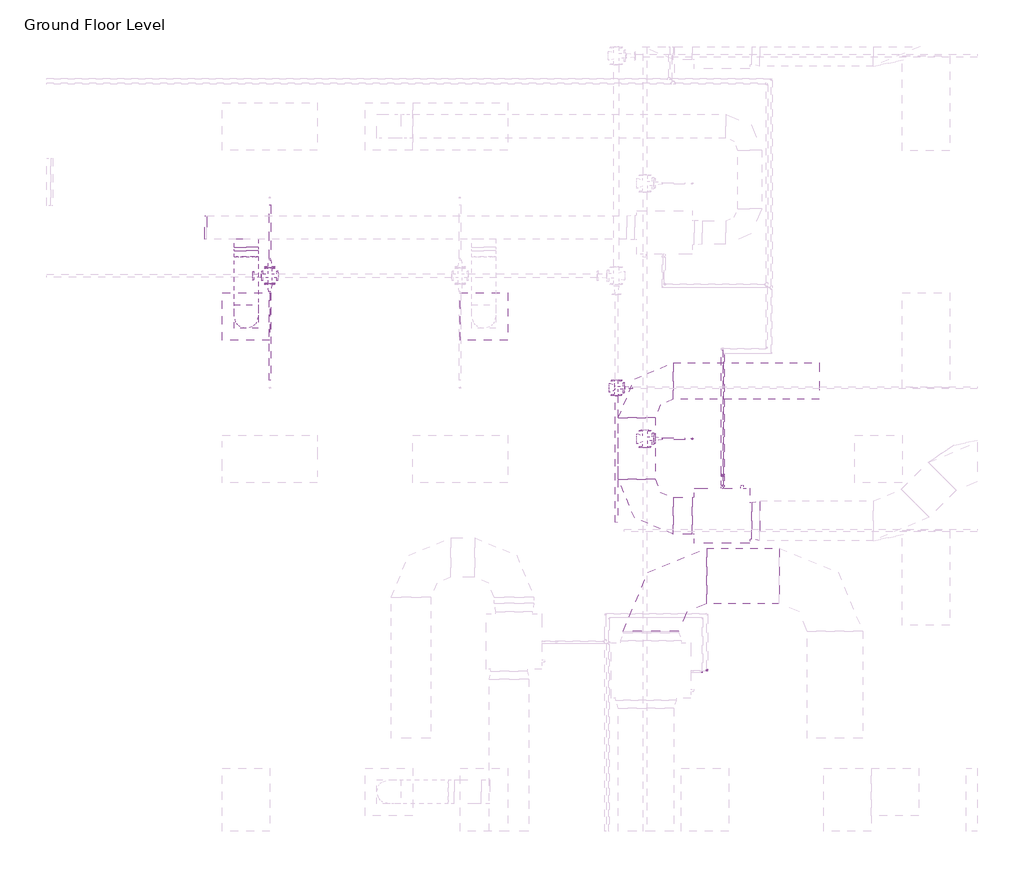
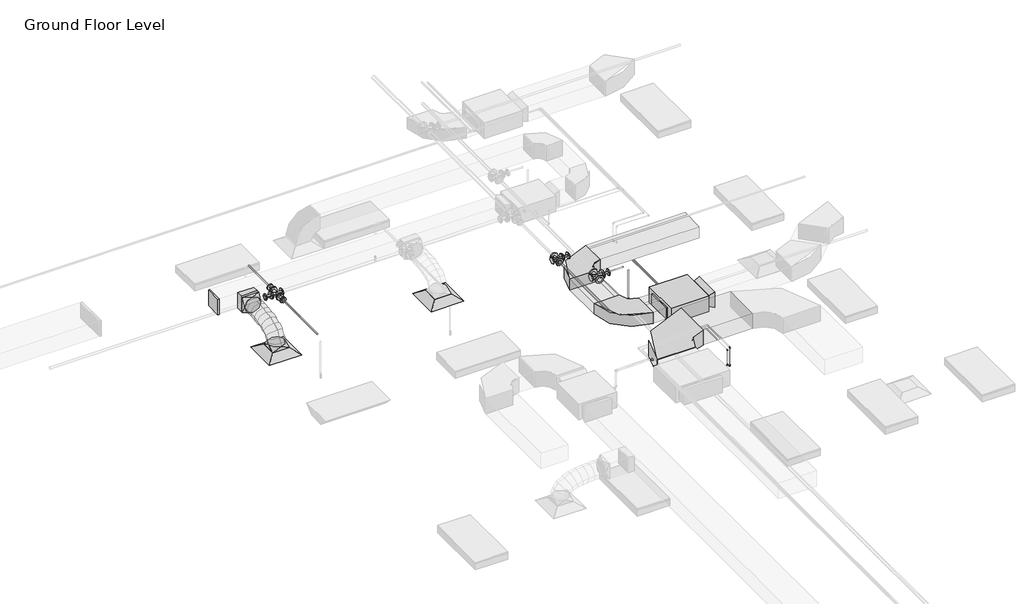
# One storey, part 34 of 74: 16 pipe fittings, 13 pipe segments, 8 duct fittings, 6 duct segments, 2 air terminals, 1 fire suppression terminal, 1 proxy.
"""IFC4 building model written with IfcOpenShell, lengths in millimetres."""

from ifc_helpers import new_model, si_unit, point, frame, frame_2d, origin, place, context, project, spatial, polyline, circle_curve, ellipse_curve, trimmed, segment, composite_curve, outline, extrude, transform, mapped, element, save
from ifc_brep_helpers import plane_surface, cylinder_surface, advanced_brep
from components import m_return_diffuser_600_x_600_face_300_x_300_connection_ff221211, fcu_daikin_iu_bad131e0, m_rectangular_elbow_radius_1_w_54c96895, m_rectangular_elbow_radius_1_w_8a62b27e, m_rectangular_endcap_standard_c319d4e7, m_rectangular_takeoff_standard_cb0ccb98, m_rectangular_transition_angle_45_degree_2b595dfe, m_rectangular_to_round_transition_angle_45_degree_641efff0, m_sprinkler_pendent_15_mm_pendent_06fcbd8e, m_cross_flanged_cs_class_150_standard_fc817054, m_elbow_generic_standard_a088f956, m_elbow_generic_standard_2a704253, m_reducer_flanged_cs_class_150_standard_ccf252ad, m_reducer_flanged_cs_class_150_standard_83138b42, m_reducer_flanged_cs_class_150_standard_564df86d, m_reducer_flanged_cs_class_150_standard_dc68ad9d, m_tee_round_base_flanged_cs_class_150_standard_7e5987a1, m_tee_round_base_flanged_cs_class_150_standard_ab36f383

model = new_model("IFC4")

# Units and contexts
model_context = context("Model", 3, world=origin())
ifc_project = project(units=[si_unit("LENGTHUNIT", "METRE", prefix="MILLI")], contexts=[model_context])

# Site, building, storey
site = spatial("IfcSite", under=ifc_project)
building = spatial("IfcBuilding", under=site)
storey = spatial("IfcBuildingStorey", under=building, Name="Ground Floor Level", Elevation=900.0)

# Air terminals
placement = place(None, origin())
m_return_diffuser_600_x_600_face_300_x_300_connection_shape = m_return_diffuser_600_x_600_face_300_x_300_connection_ff221211(model_context)
element("IfcAirTerminal", 1, ObjectType="M_Supply Diffuser : 600 x 600 Face 300 x 300 Connection", at=placement, inside=storey, context=model_context, shape_type="MappedRepresentation", body=[
    mapped(m_return_diffuser_600_x_600_face_300_x_300_connection_shape, transform((962.7672395, -3464.7846466, 3650.0), x_axis=(1.0, 0.0, 0.0), y_axis=(0.0, 1.0, 0.0), z_axis=(0.0, 0.0, 1.0))),
])
element("IfcAirTerminal", 2, ObjectType="M_Supply Diffuser : 600 x 600 Face 300 x 300 Connection", at=placement, inside=storey, context=model_context, shape_type="MappedRepresentation", body=[
    mapped(m_return_diffuser_600_x_600_face_300_x_300_connection_shape, transform((3962.7672395, -3464.7846466, 3650.0), x_axis=(1.0, 0.0, 0.0), y_axis=(0.0, 1.0, 0.0), z_axis=(0.0, 0.0, 1.0))),
])

# Proxy
fcu_daikin_iu_shape = fcu_daikin_iu_bad131e0(model_context)
element("IfcBuildingElementProxy", 3, Name="FCU-DAIKIN IU : 4.5kW, 230V/50Hz/1Ph", ObjectType="FCU-DAIKIN IU : 4.5kW, 230V/50Hz/1Ph", at=placement, inside=storey, context=model_context, shape_type="MappedRepresentation", body=[
    mapped(fcu_daikin_iu_shape, transform((6968.8139492, -5980.3220473, 3934.0932729), x_axis=(0.0, 1.0, 0.0), y_axis=(-1.0, 0.0, 0.0), z_axis=(0.0, 0.0, 1.0))),
])

# Duct fittings
m_rectangular_elbow_radius_1_w_shape = m_rectangular_elbow_radius_1_w_54c96895(model_context)
element("IfcDuctFitting", 4, ObjectType="M_Rectangular Elbow - Radius : 1 W", at=placement, inside=storey, context=model_context, shape_type="MappedRepresentation", body=[
    mapped(m_rectangular_elbow_radius_1_w_shape, transform((5893.4139492, -5980.3220473, 4075.2932729), x_axis=(0.0, -1.0, 0.0), y_axis=(1.0, 0.0, 0.0), z_axis=(0.0, 0.0, 1.0))),
])
element("IfcDuctFitting", 5, ObjectType="M_Rectangular Elbow - Radius : 1 W", at=placement, inside=storey, context=model_context, shape_type="MappedRepresentation", body=[
    mapped(m_rectangular_elbow_radius_1_w_shape, transform((5893.4139492, -4280.3216051, 4075.2932729), x_axis=(-1.0, 0.0, 0.0), y_axis=(0.0, -1.0, 0.0), z_axis=(0.0, 0.0, 1.0))),
])
m_rectangular_elbow_radius_1_w_2_shape = m_rectangular_elbow_radius_1_w_8a62b27e(model_context)
element("IfcDuctFitting", 6, ObjectType="M_Rectangular Elbow - Radius : 1 W", at=placement, inside=storey, context=model_context, shape_type="MappedRepresentation", body=[
    mapped(m_rectangular_elbow_radius_1_w_2_shape, transform((6073.4139492, -6738.5358641, 4075.2875), x_axis=(-1.0, 0.0, 0.0), y_axis=(0.0, -1.0, 0.0), z_axis=(0.0, 0.0, 1.0))),
])
m_rectangular_endcap_standard_shape = m_rectangular_endcap_standard_c319d4e7(model_context)
element("IfcDuctFitting", 7, ObjectType="M_Rectangular Endcap : Standard", at=placement, inside=storey, context=model_context, shape_type="MappedRepresentation", body=[
    mapped(m_rectangular_endcap_standard_shape, transform((468.0139492, -2341.7438478, 4099.9874667), x_axis=(-0.9999999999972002, 0.0, -2.3663212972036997e-06), y_axis=(0.0, -1.0, 0.0), z_axis=(-2.3663212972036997e-06, 0.0, 0.9999999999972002))),
])
m_rectangular_takeoff_standard_shape = m_rectangular_takeoff_standard_cb0ccb98(model_context)
element("IfcDuctFitting", 8, ObjectType="M_Rectangular Takeoff : Standard", at=placement, inside=storey, context=model_context, shape_type="MappedRepresentation", body=[
    mapped(m_rectangular_takeoff_standard_shape, transform((962.7672395, -2491.7438478, 4099.9886375), x_axis=(0.0, -1.0, 0.0), y_axis=(-1.0, 0.0, 0.0), z_axis=(0.0, 0.0, -1.0))),
])
m_rectangular_transition_angle_45_degree_shape = m_rectangular_transition_angle_45_degree_2b595dfe(model_context)
element("IfcDuctFitting", 9, ObjectType="M_Rectangular Transition - Angle : 45 Degree", at=placement, inside=storey, context=model_context, shape_type="MappedRepresentation", body=[
    mapped(m_rectangular_transition_angle_45_degree_shape, transform((7344.2139492, -6043.8220473, 4100.0057729), x_axis=(1.0, 0.0, 0.0), y_axis=(0.0, 1.0, 0.0), z_axis=(0.0, 0.0, 1.0))),
])
m_rectangular_to_round_transition_angle_45_degree_shape = m_rectangular_to_round_transition_angle_45_degree_641efff0(model_context)
element("IfcDuctFitting", 10, ObjectType="M_Rectangular to Round Transition - Angle : 45 Degree", at=placement, inside=storey, context=model_context, shape_type="MappedRepresentation", body=[
    mapped(m_rectangular_to_round_transition_angle_45_degree_shape, transform((962.7672395, -3464.7846466, 3751.6), x_axis=(0.0, 0.0, 1.0), y_axis=(-1.0, 0.0, 0.0), z_axis=(0.0, -1.0, 0.0))),
])
element("IfcDuctFitting", 11, ObjectType="M_Rectangular to Round Transition - Angle : 45 Degree", at=placement, inside=storey, context=model_context, shape_type="MappedRepresentation", body=[
    mapped(m_rectangular_to_round_transition_angle_45_degree_shape, transform((962.7672395, -2637.4373528, 4099.9886375), x_axis=(0.0, -1.0, 0.0), y_axis=(1.0, 0.0, 0.0), z_axis=(0.0, 0.0, 1.0))),
])

# Duct segments
element("IfcDuctSegment", 12, ObjectType="Flex - Round", at=placement, inside=storey, context=model_context, shape_type="AdvancedBrep", body=[
    advanced_brep(
    [(1112.7672395, -3464.7846466, 3826.6), (962.7672395, -3614.7846466, 3826.6), (812.7672395, -3464.7846466, 3826.6), (962.7672395, -3314.7846466, 3826.6), (1112.7672395, -3464.7846466, 3857.9381884), (962.7672395, -3614.7846466, 3883.5819935), (812.7672395, -3464.7846466, 3857.9381884), (962.7672395, -3314.7846466, 3832.2943832), (1112.7672395, -3447.768399, 3906.25078), (962.7672395, -3581.5056623, 3978.0678058), (812.7672395, -3447.768399, 3906.25078), (962.7672395, -3314.0311357, 3834.4337542), (1112.7672395, -3400.5836609, 3968.7107931), (962.7672395, -3504.7876153, 4079.6220458), (812.7672395, -3400.5836609, 3968.7107931), (962.7672395, -3296.3797065, 3857.7995403), (1112.7672395, -3329.0264393, 4016.0681252), (962.7672395, -3397.9574302, 4150.3234013), (812.7672395, -3329.0264393, 4016.0681252), (962.7672395, -3260.0954484, 3881.8128492), (1112.7672395, -3238.8927413, 4050.4108625), (962.7672395, -3282.4501545, 4194.3339779), (812.7672395, -3238.8927413, 4050.4108625), (962.7672395, -3195.3353281, 3906.4877471), (1112.7672395, -3135.978574, 4073.8270909), (962.7672395, -3162.5363225, 4221.6181678), (812.7672395, -3135.978574, 4073.8270909), (962.7672395, -3109.4208256, 3926.0360141), (1112.7672395, -3026.0799445, 4088.4048966), (962.7672395, -3041.2280867, 4237.7094321), (812.7672395, -3026.0799445, 4088.4048966), (962.7672395, -3010.9318022, 3939.1003612), (1112.7672395, -2914.9928597, 4096.2323656), (962.7672395, -2922.4960405, 4246.0755838), (812.7672395, -2914.9928597, 4096.2323656), (962.7672395, -2907.4896789, 3946.3891473), (1112.7672395, -2808.5133268, 4099.3975838), (962.7672395, -2811.2035581, 4249.3838721), (812.7672395, -2808.5133268, 4099.3975838), (962.7672395, -2805.8230955, 3949.4112955), (1112.7672395, -2712.4373528, 4099.9886375), (962.7672395, -2711.5145792, 3949.9914759), (812.7672395, -2712.4373528, 4099.9886375), (962.7672395, -2713.3601263, 4249.9857991)],
    [
        (0, 1, circle_curve(frame((962.7672395, -3464.7846466, 3826.6), z_axis=(0.0, 0.0, -1.0), x_axis=(1.0, 0.0, 0.0)), 150.0)),
        (1, 2, circle_curve(frame((962.7672395, -3464.7846466, 3826.6), z_axis=(0.0, 0.0, -1.0), x_axis=(1.0, 0.0, 0.0)), 150.0)),
        (2, 3, circle_curve(frame((962.7672395, -3464.7846466, 3826.6), z_axis=(0.0, 0.0, -1.0), x_axis=(1.0, 0.0, 0.0)), 150.0)),
        (3, 0, circle_curve(frame((962.7672395, -3464.7846466, 3826.6), z_axis=(0.0, 0.0, -1.0), x_axis=(1.0, 0.0, 0.0)), 150.0)),
        (0, 4),
        (4, 5, ellipse_curve(frame((962.7672395, -3464.7846466, 3857.9381884), z_axis=(0.0, -0.1685138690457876, -0.985699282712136), x_axis=(0.0, 0.9856992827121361, -0.16851386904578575)), 152.1762292, 150.0)),
        (5, 1),
        (5, 6, ellipse_curve(frame((962.7672395, -3464.7846466, 3857.9381884), z_axis=(0.0, -0.1685138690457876, -0.985699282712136), x_axis=(0.0, 0.9856992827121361, -0.16851386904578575)), 152.1762292, 150.0)),
        (6, 2),
        (6, 7, ellipse_curve(frame((962.7672395, -3464.7846466, 3857.9381884), z_axis=(0.0, -0.1685138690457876, -0.985699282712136), x_axis=(0.0, 0.9856992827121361, -0.16851386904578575)), 152.1762292, 150.0)),
        (7, 3),
        (7, 4, ellipse_curve(frame((962.7672395, -3464.7846466, 3857.9381884), z_axis=(0.0, -0.1685138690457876, -0.985699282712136), x_axis=(0.0, 0.9856992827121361, -0.16851386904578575)), 152.1762292, 150.0)),
        (4, 8),
        (8, 9, ellipse_curve(frame((962.7672395, -3447.768399, 3906.25078), z_axis=(0.0, -0.47310190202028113, -0.8810077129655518), x_axis=(0.0, 0.8810077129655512, -0.47310190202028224)), 151.800332, 150.0)),
        (9, 5),
        (9, 10, ellipse_curve(frame((962.7672395, -3447.768399, 3906.25078), z_axis=(0.0, -0.47310190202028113, -0.8810077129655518), x_axis=(0.0, 0.8810077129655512, -0.47310190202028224)), 151.800332, 150.0)),
        (10, 6),
        (10, 11, ellipse_curve(frame((962.7672395, -3447.768399, 3906.25078), z_axis=(0.0, -0.47310190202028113, -0.8810077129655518), x_axis=(0.0, 0.8810077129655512, -0.47310190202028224)), 151.800332, 150.0)),
        (11, 7),
        (11, 8, ellipse_curve(frame((962.7672395, -3447.768399, 3906.25078), z_axis=(0.0, -0.47310190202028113, -0.8810077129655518), x_axis=(0.0, 0.8810077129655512, -0.47310190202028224)), 151.800332, 150.0)),
        (8, 12),
        (12, 13, ellipse_curve(frame((962.7672395, -3400.5836609, 3968.7107931), z_axis=(0.0, -0.7288002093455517, -0.6847264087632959), x_axis=(0.0, 0.6847264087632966, -0.7288002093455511)), 152.1833437, 150.0)),
        (13, 9),
        (13, 14, ellipse_curve(frame((962.7672395, -3400.5836609, 3968.7107931), z_axis=(0.0, -0.7288002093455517, -0.6847264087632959), x_axis=(0.0, 0.6847264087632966, -0.7288002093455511)), 152.1833437, 150.0)),
        (14, 10),
        (14, 15, ellipse_curve(frame((962.7672395, -3400.5836609, 3968.7107931), z_axis=(0.0, -0.7288002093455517, -0.6847264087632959), x_axis=(0.0, 0.6847264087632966, -0.7288002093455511)), 152.1833437, 150.0)),
        (15, 11),
        (15, 12, ellipse_curve(frame((962.7672395, -3400.5836609, 3968.7107931), z_axis=(0.0, -0.7288002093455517, -0.6847264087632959), x_axis=(0.0, 0.6847264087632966, -0.7288002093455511)), 152.1833437, 150.0)),
        (12, 16),
        (16, 17, ellipse_curve(frame((962.7672395, -3329.0264393, 4016.0681252), z_axis=(0.0, -0.8895963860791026, -0.45674749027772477), x_axis=(0.0, 0.456747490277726, -0.889596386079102)), 150.9170655, 150.0)),
        (17, 13),
        (17, 18, ellipse_curve(frame((962.7672395, -3329.0264393, 4016.0681252), z_axis=(0.0, -0.8895963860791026, -0.45674749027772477), x_axis=(0.0, 0.456747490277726, -0.889596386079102)), 150.9170655, 150.0)),
        (18, 14),
        (18, 19, ellipse_curve(frame((962.7672395, -3329.0264393, 4016.0681252), z_axis=(0.0, -0.8895963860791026, -0.45674749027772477), x_axis=(0.0, 0.456747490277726, -0.889596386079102)), 150.9170655, 150.0)),
        (19, 15),
        (19, 16, ellipse_curve(frame((962.7672395, -3329.0264393, 4016.0681252), z_axis=(0.0, -0.8895963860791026, -0.45674749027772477), x_axis=(0.0, 0.456747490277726, -0.889596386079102)), 150.9170655, 150.0)),
        (16, 20),
        (20, 21, ellipse_curve(frame((962.7672395, -3238.8927413, 4050.4108625), z_axis=(0.0, -0.9571270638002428, -0.28966840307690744), x_axis=(0.0, 0.2896684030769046, -0.9571270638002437)), 150.3699152, 150.0)),
        (21, 17),
        (21, 22, ellipse_curve(frame((962.7672395, -3238.8927413, 4050.4108625), z_axis=(0.0, -0.9571270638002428, -0.28966840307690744), x_axis=(0.0, 0.2896684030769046, -0.9571270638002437)), 150.3699152, 150.0)),
        (22, 18),
        (22, 23, ellipse_curve(frame((962.7672395, -3238.8927413, 4050.4108625), z_axis=(0.0, -0.9571270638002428, -0.28966840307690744), x_axis=(0.0, 0.2896684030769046, -0.9571270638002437)), 150.3699152, 150.0)),
        (23, 19),
        (23, 20, ellipse_curve(frame((962.7672395, -3238.8927413, 4050.4108625), z_axis=(0.0, -0.9571270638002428, -0.28966840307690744), x_axis=(0.0, 0.2896684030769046, -0.9571270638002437)), 150.3699152, 150.0)),
        (20, 24),
        (24, 25, ellipse_curve(frame((962.7672395, -3135.978574, 4073.8270909), z_axis=(0.0, -0.9842351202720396, -0.17686499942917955), x_axis=(0.0, 0.176864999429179, -0.9842351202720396)), 150.1583045, 150.0)),
        (25, 21),
        (25, 26, ellipse_curve(frame((962.7672395, -3135.978574, 4073.8270909), z_axis=(0.0, -0.9842351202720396, -0.17686499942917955), x_axis=(0.0, 0.176864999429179, -0.9842351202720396)), 150.1583045, 150.0)),
        (26, 22),
        (26, 27, ellipse_curve(frame((962.7672395, -3135.978574, 4073.8270909), z_axis=(0.0, -0.9842351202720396, -0.17686499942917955), x_axis=(0.0, 0.176864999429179, -0.9842351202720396)), 150.1583045, 150.0)),
        (27, 23),
        (27, 24, ellipse_curve(frame((962.7672395, -3135.978574, 4073.8270909), z_axis=(0.0, -0.9842351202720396, -0.17686499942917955), x_axis=(0.0, 0.176864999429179, -0.9842351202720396)), 150.1583045, 150.0)),
        (24, 28),
        (28, 29, ellipse_curve(frame((962.7672395, -3026.0799445, 4088.4048966), z_axis=(0.0, -0.9948925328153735, -0.10093982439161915), x_axis=(0.0, 0.10093982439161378, -0.9948925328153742)), 150.0710183, 150.0)),
        (29, 25),
        (29, 30, ellipse_curve(frame((962.7672395, -3026.0799445, 4088.4048966), z_axis=(0.0, -0.9948925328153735, -0.10093982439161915), x_axis=(0.0, 0.10093982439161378, -0.9948925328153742)), 150.0710183, 150.0)),
        (30, 26),
        (30, 31, ellipse_curve(frame((962.7672395, -3026.0799445, 4088.4048966), z_axis=(0.0, -0.9948925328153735, -0.10093982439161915), x_axis=(0.0, 0.10093982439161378, -0.9948925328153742)), 150.0710183, 150.0)),
        (31, 27),
        (31, 28, ellipse_curve(frame((962.7672395, -3026.0799445, 4088.4048966), z_axis=(0.0, -0.9948925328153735, -0.10093982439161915), x_axis=(0.0, 0.10093982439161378, -0.9948925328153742)), 150.0710183, 150.0)),
        (28, 32),
        (32, 33, ellipse_curve(frame((962.7672395, -2914.9928597, 4096.2323656), z_axis=(0.0, -0.998748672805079, -0.050010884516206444), x_axis=(0.0, 0.05001088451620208, -0.9987486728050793)), 150.030956, 150.0)),
        (33, 29),
        (33, 34, ellipse_curve(frame((962.7672395, -2914.9928597, 4096.2323656), z_axis=(0.0, -0.998748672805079, -0.050010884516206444), x_axis=(0.0, 0.05001088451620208, -0.9987486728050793)), 150.030956, 150.0)),
        (34, 30),
        (34, 35, ellipse_curve(frame((962.7672395, -2914.9928597, 4096.2323656), z_axis=(0.0, -0.998748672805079, -0.050010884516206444), x_axis=(0.0, 0.05001088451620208, -0.9987486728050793)), 150.030956, 150.0)),
        (35, 31),
        (35, 32, ellipse_curve(frame((962.7672395, -2914.9928597, 4096.2323656), z_axis=(0.0, -0.998748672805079, -0.050010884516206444), x_axis=(0.0, 0.05001088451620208, -0.9987486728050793)), 150.030956, 150.0)),
        (32, 36),
        (36, 37, ellipse_curve(frame((962.7672395, -2808.5133268, 4099.3975838), z_axis=(0.0, -0.9998391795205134, -0.017933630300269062), x_axis=(0.0, 0.017933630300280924, -0.9998391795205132)), 150.0104131, 150.0)),
        (37, 33),
        (37, 38, ellipse_curve(frame((962.7672395, -2808.5133268, 4099.3975838), z_axis=(0.0, -0.9998391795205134, -0.017933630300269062), x_axis=(0.0, 0.017933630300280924, -0.9998391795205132)), 150.0104131, 150.0)),
        (38, 34),
        (38, 39, ellipse_curve(frame((962.7672395, -2808.5133268, 4099.3975838), z_axis=(0.0, -0.9998391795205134, -0.017933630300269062), x_axis=(0.0, 0.017933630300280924, -0.9998391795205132)), 150.0104131, 150.0)),
        (39, 35),
        (39, 36, ellipse_curve(frame((962.7672395, -2808.5133268, 4099.3975838), z_axis=(0.0, -0.9998391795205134, -0.017933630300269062), x_axis=(0.0, 0.017933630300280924, -0.9998391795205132)), 150.0104131, 150.0)),
        (40, 41, circle_curve(frame((962.7672395, -2712.4373528, 4099.9886375), z_axis=(0.0, 0.9999810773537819, 0.006151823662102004), x_axis=(1.0, 0.0, 0.0)), 150.0)),
        (41, 42, circle_curve(frame((962.7672395, -2712.4373528, 4099.9886375), z_axis=(0.0, 0.9999810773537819, 0.006151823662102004), x_axis=(1.0, 0.0, 0.0)), 150.0)),
        (42, 43, circle_curve(frame((962.7672395, -2712.4373528, 4099.9886375), z_axis=(0.0, 0.9999810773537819, 0.006151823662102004), x_axis=(1.0, 0.0, 0.0)), 150.0)),
        (43, 40, circle_curve(frame((962.7672395, -2712.4373528, 4099.9886375), z_axis=(0.0, 0.9999810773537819, 0.006151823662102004), x_axis=(1.0, 0.0, 0.0)), 150.0)),
        (36, 40),
        (43, 37),
        (42, 38),
        (41, 39),
    ],
    [
        plane_surface(frame((962.7672395, -3614.7846466, 3826.6), z_axis=(0.0, 0.0, -1.0), x_axis=(1.0, 0.0, 0.0))),
        cylinder_surface(frame((962.7672395, -3464.7846466, 3826.6), z_axis=(0.0, 0.0, -1.0), x_axis=(1.0, 0.0, 0.0)), 150.0),
        cylinder_surface(frame((962.7672395, -3464.7846466, 3857.9381884), z_axis=(0.0, -0.3322079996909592, -0.9432061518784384), x_axis=(1.0, 0.0, 0.0)), 150.0),
        cylinder_surface(frame((962.7672395, -3447.768399, 3906.25078), z_axis=(0.0, -0.6027739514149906, -0.79791200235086), x_axis=(1.0, 0.0, 0.0)), 150.0),
        cylinder_surface(frame((962.7672395, -3400.5836609, 3968.7107931), z_axis=(0.0, -0.8339145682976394, -0.5518935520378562), x_axis=(1.0, 0.0, 0.0)), 150.0),
        cylinder_surface(frame((962.7672395, -3329.0264393, 4016.0681252), z_axis=(0.0, -0.9344667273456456, -0.35605046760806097), x_axis=(1.0, 0.0, 0.0)), 150.0),
        cylinder_surface(frame((962.7672395, -3238.8927413, 4050.4108625), z_axis=(0.0, -0.9750782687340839, -0.22186114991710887), x_axis=(1.0, 0.0, 0.0)), 150.0),
        cylinder_surface(frame((962.7672395, -3135.978574, 4073.8270909), z_axis=(0.0, -0.9913167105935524, -0.13149592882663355), x_axis=(1.0, 0.0, 0.0)), 150.0),
        cylinder_surface(frame((962.7672395, -3026.0799445, 4088.4048966), z_axis=(0.0, -0.9975267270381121, -0.07028818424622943), x_axis=(1.0, 0.0, 0.0)), 150.0),
        cylinder_surface(frame((962.7672395, -2914.9928597, 4096.2323656), z_axis=(0.0, -0.9995584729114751, -0.029712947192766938), x_axis=(1.0, 0.0, 0.0)), 150.0),
        plane_surface(frame((962.7672395, -2713.3601263, 4249.9857991), z_axis=(0.0, 0.999981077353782, 0.006151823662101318), x_axis=(1.0, 0.0, 0.0))),
        cylinder_surface(frame((962.7672395, -2808.5133268, 4099.3975838), z_axis=(0.0, -0.9999810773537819, -0.006151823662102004), x_axis=(1.0, 0.0, 0.0)), 150.0),
    ],
    [
        (0, [[1, 2, 3, 4]]),
        (1, [[-1, 5, 6, 7]]),
        (1, [[-2, -7, 8, 9]]),
        (1, [[-3, -9, 10, 11]]),
        (1, [[-4, -11, 12, -5]]),
        (2, [[-6, 13, 14, 15]]),
        (2, [[-8, -15, 16, 17]]),
        (2, [[-10, -17, 18, 19]]),
        (2, [[-12, -19, 20, -13]]),
        (3, [[-14, 21, 22, 23]]),
        (3, [[-16, -23, 24, 25]]),
        (3, [[-18, -25, 26, 27]]),
        (3, [[-20, -27, 28, -21]]),
        (4, [[-22, 29, 30, 31]]),
        (4, [[-24, -31, 32, 33]]),
        (4, [[-26, -33, 34, 35]]),
        (4, [[-28, -35, 36, -29]]),
        (5, [[-30, 37, 38, 39]]),
        (5, [[-32, -39, 40, 41]]),
        (5, [[-34, -41, 42, 43]]),
        (5, [[-36, -43, 44, -37]]),
        (6, [[-38, 45, 46, 47]]),
        (6, [[-40, -47, 48, 49]]),
        (6, [[-42, -49, 50, 51]]),
        (6, [[-44, -51, 52, -45]]),
        (7, [[-46, 53, 54, 55]]),
        (7, [[-48, -55, 56, 57]]),
        (7, [[-50, -57, 58, 59]]),
        (7, [[-52, -59, 60, -53]]),
        (8, [[-54, 61, 62, 63]]),
        (8, [[-56, -63, 64, 65]]),
        (8, [[-58, -65, 66, 67]]),
        (8, [[-60, -67, 68, -61]]),
        (9, [[-62, 69, 70, 71]]),
        (9, [[-64, -71, 72, 73]]),
        (9, [[-66, -73, 74, 75]]),
        (9, [[-68, -75, 76, -69]]),
        (10, [[77, 78, 79, 80]]),
        (11, [[-70, 81, -80, 82]]),
        (11, [[-72, -82, -79, 83]]),
        (11, [[-74, -83, -78, 84]]),
        (11, [[-76, -84, -77, -81]]),
    ],
),
])
element("IfcDuctSegment", 13, ObjectType="Radius Elbows / Taps", at=placement, inside=storey, context=model_context, shape_type="SweptSolid", body=[
    extrude(outline(polyline([(6593.4139492, -5749.3845473), (6593.4139492, -6211.2595473), (6355.2889492, -6211.2595473), (6355.2889492, -5749.3845473), (6593.4139492, -5749.3845473)])), frame((0.0, 0.0, 3968.1432729), z_axis=(0.0, 0.0, 1.0), x_axis=(1.0, 0.0, 0.0)), (0.0, 0.0, 1.0), 214.3),
])
element("IfcDuctSegment", 14, ObjectType="Radius Elbows / Taps", at=placement, inside=storey, context=model_context, shape_type="SweptSolid", body=[
    extrude(outline(polyline([(6124.3514492, -5518.4470473), (5662.4764492, -5518.4470473), (5662.4764492, -4742.1966051), (6124.3514492, -4742.1966051), (6124.3514492, -5518.4470473)])), frame((0.0, 0.0, 3968.1432729), z_axis=(0.0, 0.0, 1.0), x_axis=(1.0, 0.0, 0.0)), (0.0, 0.0, 1.0), 214.3),
])
element("IfcDuctSegment", 15, ObjectType="Radius Elbows / Taps", at=placement, inside=storey, context=model_context, shape_type="SweptSolid", body=[
    extrude(outline(polyline([(6355.2889492, -4511.2591051), (6355.2889492, -4049.3841051), (8193.4139492, -4049.3841051), (8193.4139492, -4511.2591051), (6355.2889492, -4511.2591051)])), frame((0.0, 0.0, 3968.1432729), z_axis=(0.0, 0.0, 1.0), x_axis=(1.0, 0.0, 0.0)), (0.0, 0.0, 1.0), 214.3),
])
element("IfcDuctSegment", 16, ObjectType="Radius Elbows / Taps", at=placement, inside=storey, context=model_context, shape_type="SweptSolid", body=[
    extrude(outline(polyline([(6773.4139492, -7088.5358641), (6773.4139492, -6388.5358641), (7693.4139492, -6388.5358641), (7693.4139492, -7088.5358641), (6773.4139492, -7088.5358641)])), frame((0.0, 0.0, 3925.2875), z_axis=(0.0, 0.0, 1.0), x_axis=(1.0, 0.0, 0.0)), (0.0, 0.0, 1.0), 300.0),
])
element("IfcDuctSegment", 17, ObjectType="Radius Elbows / Taps", at=placement, inside=storey, context=model_context, shape_type="SweptSolid", body=[
    extrude(outline(polyline([(812.7672395, -2593.3438478), (1112.7672395, -2593.3438478), (1112.7672395, -2637.4373528), (812.7672395, -2637.4373528), (812.7672395, -2593.3438478)])), frame((0.0, 0.0, 3949.9886375), z_axis=(0.0, 0.0, 1.0), x_axis=(1.0, 0.0, 0.0)), (0.0, 0.0, 1.0), 300.0),
])

# Fire suppression terminal
m_sprinkler_pendent_15_mm_pendent_shape = m_sprinkler_pendent_15_mm_pendent_06fcbd8e(model_context)
element("IfcFireSuppressionTerminal", 18, ObjectType="M_Sprinkler - Pendent : 15 mm Pendent", at=placement, inside=storey, context=model_context, shape_type="MappedRepresentation", body=[
    mapped(m_sprinkler_pendent_15_mm_pendent_shape, transform((6592.5481019, -5008.8364761, 3650.0), x_axis=(1.0, 0.0, 0.0), y_axis=(0.0, 1.0, 0.0), z_axis=(0.0, 0.0, 1.0))),
])

# Pipe fittings
m_cross_flanged_cs_class_150_standard_shape = m_cross_flanged_cs_class_150_standard_fc817054(model_context)
element("IfcPipeFitting", 19, ObjectType="M_Cross - Flanged - CS - Class 150 : Standard", at=placement, inside=storey, context=model_context, shape_type="MappedRepresentation", body=[
    mapped(m_cross_flanged_cs_class_150_standard_shape, transform((1262.7672395, -2950.3491993, 4360.0), x_axis=(1.0, 0.0, 0.0), y_axis=(0.0, -1.0, 0.0), z_axis=(0.0, 0.0, -1.0))),
])
m_elbow_generic_standard_shape = m_elbow_generic_standard_a088f956(model_context)
element("IfcPipeFitting", 20, ObjectType="M_Elbow - Generic : Standard", at=placement, inside=storey, context=model_context, shape_type="MappedRepresentation", body=[
    mapped(m_elbow_generic_standard_shape, transform((6782.8951827, -7933.9358641, 4390.0), x_axis=(0.0, -1.0, 0.0), y_axis=(0.0, 0.0, -1.0), z_axis=(1.0, 0.0, 0.0))),
])
element("IfcPipeFitting", 21, ObjectType="M_Elbow - Generic : Standard", at=placement, inside=storey, context=model_context, shape_type="MappedRepresentation", body=[
    mapped(m_elbow_generic_standard_shape, transform((6782.8951827, -7933.9358641, 4034.0875), x_axis=(0.0, 0.0, -1.0), y_axis=(-1.0, 0.0, 0.0), z_axis=(0.0, 1.0, 0.0))),
])
element("IfcPipeFitting", 22, ObjectType="M_Elbow - Generic : Standard", at=placement, inside=storey, context=model_context, shape_type="MappedRepresentation", body=[
    mapped(m_elbow_generic_standard_shape, transform((6968.8139492, -5468.2940101, 4034.0932729), x_axis=(0.0, 1.0, 0.0), y_axis=(0.0, 0.0, -1.0), z_axis=(-1.0, 0.0, 0.0))),
])
element("IfcPipeFitting", 23, ObjectType="M_Elbow - Generic : Standard", at=placement, inside=storey, context=model_context, shape_type="MappedRepresentation", body=[
    mapped(m_elbow_generic_standard_shape, transform((6968.8139492, -5468.2940101, 3950.0), x_axis=(0.0, 0.0, -1.0), y_axis=(0.0, 1.0, 0.0), z_axis=(1.0, 0.0, 0.0))),
])
m_elbow_generic_standard_2_shape = m_elbow_generic_standard_2a704253(model_context)
element("IfcPipeFitting", 24, ObjectType="M_Elbow - Generic : Standard", at=placement, inside=storey, context=model_context, shape_type="MappedRepresentation", body=[
    mapped(m_elbow_generic_standard_2_shape, transform((6723.9904113, -7958.9358641, 4377.5), x_axis=(0.0, -1.0, 0.0), y_axis=(0.0, 0.0, -1.0), z_axis=(1.0, 0.0, 0.0))),
])
element("IfcPipeFitting", 25, ObjectType="M_Elbow - Generic : Standard", at=placement, inside=storey, context=model_context, shape_type="MappedRepresentation", body=[
    mapped(m_elbow_generic_standard_2_shape, transform((6723.9904113, -7958.9358641, 4084.8875), x_axis=(0.0, 0.0, -1.0), y_axis=(-1.0, 0.0, 0.0), z_axis=(0.0, 1.0, 0.0))),
])
element("IfcPipeFitting", 26, ObjectType="M_Elbow - Generic : Standard", at=placement, inside=storey, context=model_context, shape_type="MappedRepresentation", body=[
    mapped(m_elbow_generic_standard_2_shape, transform((6993.8139492, -5470.0183195, 4084.8932729), x_axis=(0.0, 1.0, 0.0), y_axis=(0.0, 0.0, -1.0), z_axis=(-1.0, 0.0, 0.0))),
])
element("IfcPipeFitting", 27, ObjectType="M_Elbow - Generic : Standard", at=placement, inside=storey, context=model_context, shape_type="MappedRepresentation", body=[
    mapped(m_elbow_generic_standard_2_shape, transform((6993.8139492, -5470.0183195, 3950.0), x_axis=(0.0, 0.0, -1.0), y_axis=(0.0, 1.0, 0.0), z_axis=(1.0, 0.0, 0.0))),
])
m_reducer_flanged_cs_class_150_standard_shape = m_reducer_flanged_cs_class_150_standard_ccf252ad(model_context)
element("IfcPipeFitting", 28, ObjectType="M_Reducer - Flanged - CS - Class 150 : Standard", at=placement, inside=storey, context=model_context, shape_type="MappedRepresentation", body=[
    mapped(m_reducer_flanged_cs_class_150_standard_shape, transform((5736.5780918, -4364.7846466, 4360.0), x_axis=(1.0, 0.0, 0.0), y_axis=(0.0, 0.0, 1.0), z_axis=(0.0, -1.0, 0.0))),
])
m_reducer_flanged_cs_class_150_standard_2_shape = m_reducer_flanged_cs_class_150_standard_83138b42(model_context)
element("IfcPipeFitting", 29, ObjectType="M_Reducer - Flanged - CS - Class 150 : Standard", at=placement, inside=storey, context=model_context, shape_type="MappedRepresentation", body=[
    mapped(m_reducer_flanged_cs_class_150_standard_2_shape, transform((6109.3164057, -5008.8364761, 4290.0), x_axis=(1.0, 0.0, 0.0), y_axis=(0.0, 0.0, -1.0), z_axis=(0.0, 1.0, 0.0))),
])
m_reducer_flanged_cs_class_150_standard_3_shape = m_reducer_flanged_cs_class_150_standard_564df86d(model_context)
element("IfcPipeFitting", 30, ObjectType="M_Reducer - Flanged - CS - Class 150 : Standard", at=placement, inside=storey, context=model_context, shape_type="MappedRepresentation", body=[
    mapped(m_reducer_flanged_cs_class_150_standard_3_shape, transform((1160.7672395, -2950.3491993, 4360.0), x_axis=(-1.0, 0.0, 0.0), y_axis=(0.0, -1.0, 0.0), z_axis=(0.0, 0.0, 1.0))),
])
m_reducer_flanged_cs_class_150_standard_4_shape = m_reducer_flanged_cs_class_150_standard_dc68ad9d(model_context)
element("IfcPipeFitting", 31, ObjectType="M_Reducer - Flanged - CS - Class 150 : Standard", at=placement, inside=storey, context=model_context, shape_type="MappedRepresentation", body=[
    mapped(m_reducer_flanged_cs_class_150_standard_4_shape, transform((1262.7672395, -2848.3491993, 4360.0), x_axis=(0.0, 1.0, 0.0), y_axis=(-1.0, 0.0, 0.0), z_axis=(0.0, 0.0, 1.0))),
])
element("IfcPipeFitting", 32, ObjectType="M_Reducer - Flanged - CS - Class 150 : Standard", at=placement, inside=storey, context=model_context, shape_type="MappedRepresentation", body=[
    mapped(m_reducer_flanged_cs_class_150_standard_4_shape, transform((1262.7672395, -3052.3491993, 4360.0), x_axis=(0.0, -1.0, 0.0), y_axis=(1.0, 0.0, 0.0), z_axis=(0.0, 0.0, 1.0))),
])
m_tee_round_base_flanged_cs_class_150_standard_shape = m_tee_round_base_flanged_cs_class_150_standard_7e5987a1(model_context)
element("IfcPipeFitting", 33, ObjectType="M_Tee Round Base - Flanged - CS - Class 150 : Standard", at=placement, inside=storey, context=model_context, shape_type="MappedRepresentation", body=[
    mapped(m_tee_round_base_flanged_cs_class_150_standard_shape, transform((5635.869498, -4364.7846466, 4360.0), x_axis=(0.0, 1.0, 0.0), y_axis=(-1.0, 0.0, 0.0), z_axis=(0.0, 0.0, 1.0))),
])
m_tee_round_base_flanged_cs_class_150_standard_2_shape = m_tee_round_base_flanged_cs_class_150_standard_ab36f383(model_context)
element("IfcPipeFitting", 34, ObjectType="M_Tee Round Base - Flanged - CS - Class 150 : Standard", at=placement, inside=storey, context=model_context, shape_type="MappedRepresentation", body=[
    mapped(m_tee_round_base_flanged_cs_class_150_standard_2_shape, transform((5997.057812, -5008.8364761, 4290.0), x_axis=(0.0, 1.0, 0.0), y_axis=(-1.0, 0.0, 0.0), z_axis=(0.0, 0.0, 1.0))),
])

# Pipe segments
element("IfcPipeSegment", 35, ObjectType="Copper", at=placement, inside=storey, context=model_context, shape_type="SweptSolid", body=[
    extrude(outline(composite_curve([segment(trimmed(circle_curve(frame_2d((4034.0932729, 6968.8139492)), 6.5), [point((4034.0932729, 6962.3139492))], [point((4027.5932729, 6968.8139492))], False, "CARTESIAN"), True, "CONTINUOUS"), segment(trimmed(circle_curve(frame_2d((4034.0932729, 6968.8139492)), 6.5), [point((4027.5932729, 6968.8139492))], [point((4034.0932729, 6975.3139492))], False, "CARTESIAN"), True, "CONTINUOUS"), segment(trimmed(circle_curve(frame_2d((4034.0932729, 6968.8139492)), 6.5), [point((4034.0932729, 6975.3139492))], [point((4040.5932729, 6968.8139492))], False, "CARTESIAN"), True, "CONTINUOUS"), segment(trimmed(circle_curve(frame_2d((4034.0932729, 6968.8139492)), 6.5), [point((4040.5932729, 6968.8139492))], [point((4034.0932729, 6962.3139492))], False, "CARTESIAN"), True, "CONTINUOUS")], self_intersect=False)), frame((0.0, -5592.2220473, 0.0), z_axis=(0.0, 1.0, 0.0), x_axis=(0.0, 0.0, 1.0)), (0.0, 0.0, 1.0), 109.6405372),
])
element("IfcPipeSegment", 36, ObjectType="Copper", at=placement, inside=storey, context=model_context, shape_type="SweptSolid", body=[
    extrude(outline(composite_curve([segment(trimmed(circle_curve(frame_2d((4084.8932729, 6993.8139492)), 3.35), [point((4084.8932729, 6990.4639492))], [point((4081.5432729, 6993.8139492))], False, "CARTESIAN"), True, "CONTINUOUS"), segment(trimmed(circle_curve(frame_2d((4084.8932729, 6993.8139492)), 3.35), [point((4081.5432729, 6993.8139492))], [point((4084.8932729, 6997.1639492))], False, "CARTESIAN"), True, "CONTINUOUS"), segment(trimmed(circle_curve(frame_2d((4084.8932729, 6993.8139492)), 3.35), [point((4084.8932729, 6997.1639492))], [point((4088.2432729, 6993.8139492))], False, "CARTESIAN"), True, "CONTINUOUS"), segment(trimmed(circle_curve(frame_2d((4084.8932729, 6993.8139492)), 3.35), [point((4088.2432729, 6993.8139492))], [point((4084.8932729, 6990.4639492))], False, "CARTESIAN"), True, "CONTINUOUS")], self_intersect=False)), frame((0.0, -5592.2220473, 0.0), z_axis=(0.0, 1.0, 0.0), x_axis=(0.0, 0.0, 1.0)), (0.0, 0.0, 1.0), 111.0662279),
])
element("IfcPipeSegment", 37, ObjectType="Copper", at=placement, inside=storey, context=model_context, shape_type="SweptSolid", body=[
    extrude(outline(composite_curve([segment(trimmed(circle_curve(frame_2d((6723.9904113, -7958.9358641)), 3.35), [point((6727.3404113, -7958.9358641))], [point((6723.9904113, -7962.2858641))], False, "CARTESIAN"), True, "CONTINUOUS"), segment(trimmed(circle_curve(frame_2d((6723.9904113, -7958.9358641)), 3.35), [point((6723.9904113, -7962.2858641))], [point((6720.6404113, -7958.9358641))], False, "CARTESIAN"), True, "CONTINUOUS"), segment(trimmed(circle_curve(frame_2d((6723.9904113, -7958.9358641)), 3.35), [point((6720.6404113, -7958.9358641))], [point((6723.9904113, -7955.5858641))], False, "CARTESIAN"), True, "CONTINUOUS"), segment(trimmed(circle_curve(frame_2d((6723.9904113, -7958.9358641)), 3.35), [point((6723.9904113, -7955.5858641))], [point((6727.3404113, -7958.9358641))], False, "CARTESIAN"), True, "CONTINUOUS")], self_intersect=False)), frame((0.0, 0.0, 4096.025), z_axis=(0.0, 0.0, 1.0), x_axis=(1.0, 0.0, 0.0)), (0.0, 0.0, 1.0), 270.3375),
])
element("IfcPipeSegment", 38, ObjectType="Copper", at=placement, inside=storey, context=model_context, shape_type="SweptSolid", body=[
    extrude(outline(composite_curve([segment(trimmed(circle_curve(frame_2d((6782.8951827, -7933.9358641)), 6.5), [point((6789.3951827, -7933.9358641))], [point((6782.8951827, -7940.4358641))], False, "CARTESIAN"), True, "CONTINUOUS"), segment(trimmed(circle_curve(frame_2d((6782.8951827, -7933.9358641)), 6.5), [point((6782.8951827, -7940.4358641))], [point((6776.3951827, -7933.9358641))], False, "CARTESIAN"), True, "CONTINUOUS"), segment(trimmed(circle_curve(frame_2d((6782.8951827, -7933.9358641)), 6.5), [point((6776.3951827, -7933.9358641))], [point((6782.8951827, -7927.4358641))], False, "CARTESIAN"), True, "CONTINUOUS"), segment(trimmed(circle_curve(frame_2d((6782.8951827, -7933.9358641)), 6.5), [point((6782.8951827, -7927.4358641))], [point((6789.3951827, -7933.9358641))], False, "CARTESIAN"), True, "CONTINUOUS")], self_intersect=False)), frame((0.0, 0.0, 4048.375), z_axis=(0.0, 0.0, 1.0), x_axis=(1.0, 0.0, 0.0)), (0.0, 0.0, 1.0), 327.3375),
])
element("IfcPipeSegment", 39, ObjectType="Copper", at=placement, inside=storey, context=model_context, shape_type="SweptSolid", body=[
    extrude(outline(composite_curve([segment(trimmed(circle_curve(frame_2d((3950.0, 6993.8139492)), 3.35), [point((3950.0, 6990.4639492))], [point((3946.65, 6993.8139492))], False, "CARTESIAN"), True, "CONTINUOUS"), segment(trimmed(circle_curve(frame_2d((3950.0, 6993.8139492)), 3.35), [point((3946.65, 6993.8139492))], [point((3950.0, 6997.1639492))], False, "CARTESIAN"), True, "CONTINUOUS"), segment(trimmed(circle_curve(frame_2d((3950.0, 6993.8139492)), 3.35), [point((3950.0, 6997.1639492))], [point((3953.35, 6993.8139492))], False, "CARTESIAN"), True, "CONTINUOUS"), segment(trimmed(circle_curve(frame_2d((3950.0, 6993.8139492)), 3.35), [point((3953.35, 6993.8139492))], [point((3950.0, 6990.4639492))], False, "CARTESIAN"), True, "CONTINUOUS")], self_intersect=False)), frame((0.0, -5458.8808195, 0.0), z_axis=(0.0, 1.0, 0.0), x_axis=(0.0, 0.0, 1.0)), (0.0, 0.0, 1.0), 1515.8420737),
])
element("IfcPipeSegment", 40, ObjectType="Copper", at=placement, inside=storey, context=model_context, shape_type="SweptSolid", body=[
    extrude(outline(composite_curve([segment(trimmed(circle_curve(frame_2d((3950.0, 6968.8139492)), 6.5), [point((3950.0, 6962.3139492))], [point((3943.5, 6968.8139492))], False, "CARTESIAN"), True, "CONTINUOUS"), segment(trimmed(circle_curve(frame_2d((3950.0, 6968.8139492)), 6.5), [point((3943.5, 6968.8139492))], [point((3950.0, 6975.3139492))], False, "CARTESIAN"), True, "CONTINUOUS"), segment(trimmed(circle_curve(frame_2d((3950.0, 6968.8139492)), 6.5), [point((3950.0, 6975.3139492))], [point((3956.5, 6968.8139492))], False, "CARTESIAN"), True, "CONTINUOUS"), segment(trimmed(circle_curve(frame_2d((3950.0, 6968.8139492)), 6.5), [point((3956.5, 6968.8139492))], [point((3950.0, 6962.3139492))], False, "CARTESIAN"), True, "CONTINUOUS")], self_intersect=False)), frame((0.0, -5454.0065101, 0.0), z_axis=(0.0, 1.0, 0.0), x_axis=(0.0, 0.0, 1.0)), (0.0, 0.0, 1.0), 1569.809105),
])
element("IfcPipeSegment", 41, ObjectType="Copper", at=placement, inside=storey, context=model_context, shape_type="SweptSolid", body=[
    extrude(outline(composite_curve([segment(trimmed(circle_curve(frame_2d((6968.8139492, -5468.2940101)), 6.5), [point((6975.3139492, -5468.2940101))], [point((6968.8139492, -5474.7940101))], False, "CARTESIAN"), True, "CONTINUOUS"), segment(trimmed(circle_curve(frame_2d((6968.8139492, -5468.2940101)), 6.5), [point((6968.8139492, -5474.7940101))], [point((6962.3139492, -5468.2940101))], False, "CARTESIAN"), True, "CONTINUOUS"), segment(trimmed(circle_curve(frame_2d((6968.8139492, -5468.2940101)), 6.5), [point((6962.3139492, -5468.2940101))], [point((6968.8139492, -5461.7940101))], False, "CARTESIAN"), True, "CONTINUOUS"), segment(trimmed(circle_curve(frame_2d((6968.8139492, -5468.2940101)), 6.5), [point((6968.8139492, -5461.7940101))], [point((6975.3139492, -5468.2940101))], False, "CARTESIAN"), True, "CONTINUOUS")], self_intersect=False)), frame((0.0, 0.0, 3964.2875), z_axis=(0.0, 0.0, 1.0), x_axis=(1.0, 0.0, 0.0)), (0.0, 0.0, 1.0), 55.5182729),
])
element("IfcPipeSegment", 42, ObjectType="Copper", at=placement, inside=storey, context=model_context, shape_type="SweptSolid", body=[
    extrude(outline(composite_curve([segment(trimmed(circle_curve(frame_2d((6993.8139492, -5470.0183195)), 3.35), [point((6997.1639492, -5470.0183195))], [point((6993.8139492, -5473.3683195))], False, "CARTESIAN"), True, "CONTINUOUS"), segment(trimmed(circle_curve(frame_2d((6993.8139492, -5470.0183195)), 3.35), [point((6993.8139492, -5473.3683195))], [point((6990.4639492, -5470.0183195))], False, "CARTESIAN"), True, "CONTINUOUS"), segment(trimmed(circle_curve(frame_2d((6993.8139492, -5470.0183195)), 3.35), [point((6990.4639492, -5470.0183195))], [point((6993.8139492, -5466.6683195))], False, "CARTESIAN"), True, "CONTINUOUS"), segment(trimmed(circle_curve(frame_2d((6993.8139492, -5470.0183195)), 3.35), [point((6993.8139492, -5466.6683195))], [point((6997.1639492, -5470.0183195))], False, "CARTESIAN"), True, "CONTINUOUS")], self_intersect=False)), frame((0.0, 0.0, 3961.1375), z_axis=(0.0, 0.0, 1.0), x_axis=(1.0, 0.0, 0.0)), (0.0, 0.0, 1.0), 112.6182729),
])
element("IfcPipeSegment", 43, ObjectType="Steel flanged", at=placement, inside=storey, context=model_context, shape_type="SweptSolid", body=[
    extrude(outline(composite_curve([segment(trimmed(circle_curve(frame_2d((6592.5481019, -5008.8364761)), 10.668), [point((6581.8801019, -5008.8364761))], [point((6592.5481019, -4998.1684761))], False, "CARTESIAN"), True, "CONTINUOUS"), segment(trimmed(circle_curve(frame_2d((6592.5481019, -5008.8364761)), 10.668), [point((6592.5481019, -4998.1684761))], [point((6603.2161019, -5008.8364761))], False, "CARTESIAN"), True, "CONTINUOUS"), segment(trimmed(circle_curve(frame_2d((6592.5481019, -5008.8364761)), 10.668), [point((6603.2161019, -5008.8364761))], [point((6592.5481019, -5019.5044761))], False, "CARTESIAN"), True, "CONTINUOUS"), segment(trimmed(circle_curve(frame_2d((6592.5481019, -5008.8364761)), 10.668), [point((6592.5481019, -5019.5044761))], [point((6581.8801019, -5008.8364761))], False, "CARTESIAN"), True, "CONTINUOUS")], self_intersect=False)), frame((0.0, 0.0, 3650.0), z_axis=(0.0, 0.0, 1.0), x_axis=(1.0, 0.0, 0.0)), (0.0, 0.0, 1.0), 546.9914062),
])
element("IfcPipeSegment", 44, ObjectType="Steel flanged", at=placement, inside=storey, context=model_context, shape_type="SweptSolid", body=[
    extrude(outline(composite_curve([segment(trimmed(circle_curve(frame_2d((-5008.8364761, 4290.0)), 10.668), [point((-4998.1684761, 4290.0))], [point((-5008.8364761, 4279.332))], False, "CARTESIAN"), True, "CONTINUOUS"), segment(trimmed(circle_curve(frame_2d((-5008.8364761, 4290.0)), 10.668), [point((-5008.8364761, 4279.332))], [point((-5019.5044761, 4290.0))], False, "CARTESIAN"), True, "CONTINUOUS"), segment(trimmed(circle_curve(frame_2d((-5008.8364761, 4290.0)), 10.668), [point((-5019.5044761, 4290.0))], [point((-5008.8364761, 4300.668))], False, "CARTESIAN"), True, "CONTINUOUS"), segment(trimmed(circle_curve(frame_2d((-5008.8364761, 4290.0)), 10.668), [point((-5008.8364761, 4300.668))], [point((-4998.1684761, 4290.0))], False, "CARTESIAN"), True, "CONTINUOUS")], self_intersect=False)), frame((6223.3164057, 0.0, 0.0), z_axis=(1.0, 0.0, 0.0), x_axis=(0.0, 1.0, 0.0)), (0.0, 0.0, 1.0), 276.2231025),
])
element("IfcPipeSegment", 45, ObjectType="Steel flanged", at=placement, inside=storey, context=model_context, shape_type="SweptSolid", body=[
    extrude(outline(composite_curve([segment(trimmed(circle_curve(frame_2d((4360.0, 5635.869498)), 16.7005), [point((4360.0, 5619.168998))], [point((4343.2995, 5635.869498))], False, "CARTESIAN"), True, "CONTINUOUS"), segment(trimmed(circle_curve(frame_2d((4360.0, 5635.869498)), 16.7005), [point((4343.2995, 5635.869498))], [point((4360.0, 5652.569998))], False, "CARTESIAN"), True, "CONTINUOUS"), segment(trimmed(circle_curve(frame_2d((4360.0, 5635.869498)), 16.7005), [point((4360.0, 5652.569998))], [point((4376.7005, 5635.869498))], False, "CARTESIAN"), True, "CONTINUOUS"), segment(trimmed(circle_curve(frame_2d((4360.0, 5635.869498)), 16.7005), [point((4376.7005, 5635.869498))], [point((4360.0, 5619.168998))], False, "CARTESIAN"), True, "CONTINUOUS")], self_intersect=False)), frame((0.0, -6064.0760529, 0.0), z_axis=(0.0, 1.0, 0.0), x_axis=(0.0, 0.0, 1.0)), (0.0, 0.0, 1.0), 1598.5828125),
])
element("IfcPipeSegment", 46, ObjectType="Steel flanged", at=placement, inside=storey, context=model_context, shape_type="SweptSolid", body=[
    extrude(outline(composite_curve([segment(trimmed(circle_curve(frame_2d((4360.0, 1262.7672395)), 10.668), [point((4360.0, 1252.0992395))], [point((4349.332, 1262.7672395))], False, "CARTESIAN"), True, "CONTINUOUS"), segment(trimmed(circle_curve(frame_2d((4360.0, 1262.7672395)), 10.668), [point((4349.332, 1262.7672395))], [point((4360.0, 1273.4352395))], False, "CARTESIAN"), True, "CONTINUOUS"), segment(trimmed(circle_curve(frame_2d((4360.0, 1262.7672395)), 10.668), [point((4360.0, 1273.4352395))], [point((4370.668, 1262.7672395))], False, "CARTESIAN"), True, "CONTINUOUS"), segment(trimmed(circle_curve(frame_2d((4360.0, 1262.7672395)), 10.668), [point((4370.668, 1262.7672395))], [point((4360.0, 1252.0992395))], False, "CARTESIAN"), True, "CONTINUOUS")], self_intersect=False)), frame((0.0, -2734.3491993, 0.0), z_axis=(0.0, 1.0, 0.0), x_axis=(0.0, 0.0, 1.0)), (0.0, 0.0, 1.0), 676.5559589),
])
element("IfcPipeSegment", 47, ObjectType="Steel flanged", at=placement, inside=storey, context=model_context, shape_type="SweptSolid", body=[
    extrude(outline(composite_curve([segment(trimmed(circle_curve(frame_2d((4360.0, 1262.7672395)), 10.668), [point((4360.0, 1273.4352395))], [point((4370.668, 1262.7672395))], False, "CARTESIAN"), True, "CONTINUOUS"), segment(trimmed(circle_curve(frame_2d((4360.0, 1262.7672395)), 10.668), [point((4370.668, 1262.7672395))], [point((4360.0, 1252.0992395))], False, "CARTESIAN"), True, "CONTINUOUS"), segment(trimmed(circle_curve(frame_2d((4360.0, 1262.7672395)), 10.668), [point((4360.0, 1252.0992395))], [point((4349.332, 1262.7672395))], False, "CARTESIAN"), True, "CONTINUOUS"), segment(trimmed(circle_curve(frame_2d((4360.0, 1262.7672395)), 10.668), [point((4349.332, 1262.7672395))], [point((4360.0, 1273.4352395))], False, "CARTESIAN"), True, "CONTINUOUS")], self_intersect=False)), frame((0.0, -4271.7760529, 0.0), z_axis=(0.0, 1.0, 0.0), x_axis=(0.0, 0.0, 1.0)), (0.0, 0.0, 1.0), 1105.4268536),
])

save(model, "model.ifc")
